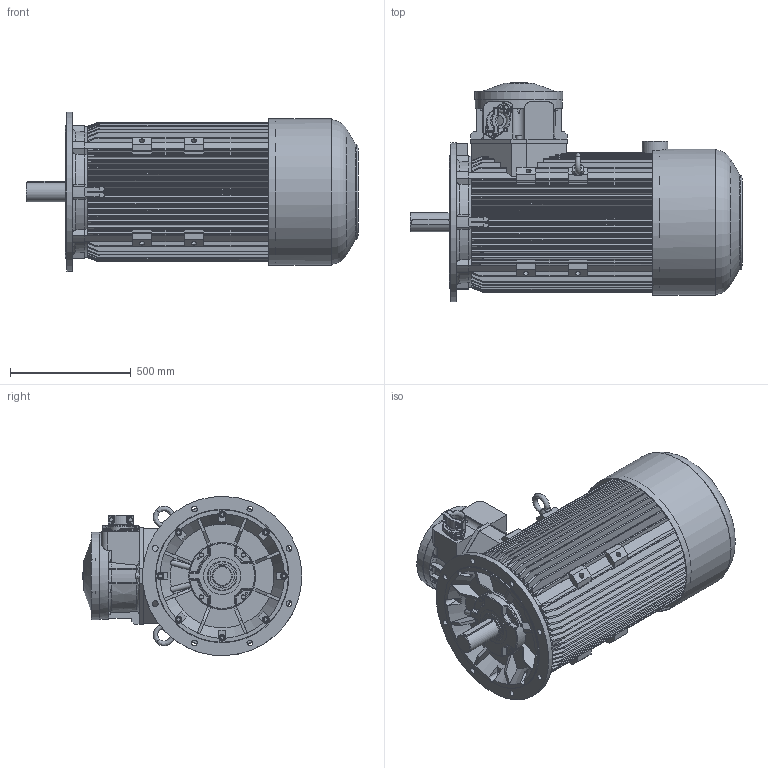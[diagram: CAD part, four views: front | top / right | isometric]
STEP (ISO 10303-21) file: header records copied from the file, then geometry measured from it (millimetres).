
FILE_DESCRIPTION(/* description */ ('Unknown'),/* implementation_level */ '2;1');
FILE_NAME(/* name */ 'cSTKe(b)315M4(A,B), M(6,8)B-N-IE(2,3)',/* time_stamp */ '2022-04-19T13:49:36+02:00',/* author */ ('Unknown'),/* organization */ ('Unknown'),/* preprocessor_version */ 'ST-DEVELOPER v16.7',/* originating_system */ 'DEX',/* authorisation */ $);
FILE_SCHEMA (('AP242_MANAGED_MODEL_BASED_3D_ENGINEERING_MIM_LF { 1 0 10303 442 1 1 4 }','AUTOMOTIVE_DESIGN {1 0 10303 214 3 1 1}'));
Products named in the file (1): cSTKe(b)315M4(A,B), M(6,8)B-N-IE(2,3)
Bounding box: 1375.49 x 910 x 659.67 mm (x, y, z)
Volume: 303424397.9 mm3; surface area: 7388457.7 mm2
Topology: 1 solids, 58 shells, 2398 faces, 6196 edges, 3986 vertices
Faces by surface type: plane 1071, cylinder 689, cone 323, torus 177, bspline 101, sphere 37
Full cylindrical faces by diameter (mm): 2.459 x2, 2.8 x2, 4.5 x1, 6 x1, 6.3 x1, 6.647 x4, 8.16 x2, 8.376 x4, 10 x10, 10.106 x10, 11 x7, 12 x17, 13.5 x8, 13.546 x12, 13.835 x14, 14.63 x8, 16 x25, 17.5 x12, 18 x8, 20.752 x8, 22 x8, 24 x20, 26 x8, 44 x1, 60.376 x1, 67 x1, 80 x1, 87 x1, 100 x1, 106 x1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
Entity records: 93739 total; most frequent: CARTESIAN_POINT 21451, DIRECTION 11430, ORIENTED_EDGE 11218, EDGE_CURVE 5609, AXIS2_PLACEMENT_3D 4373, VERTEX_POINT 3806, FACE_BOUND 2969, EDGE_LOOP 2945
